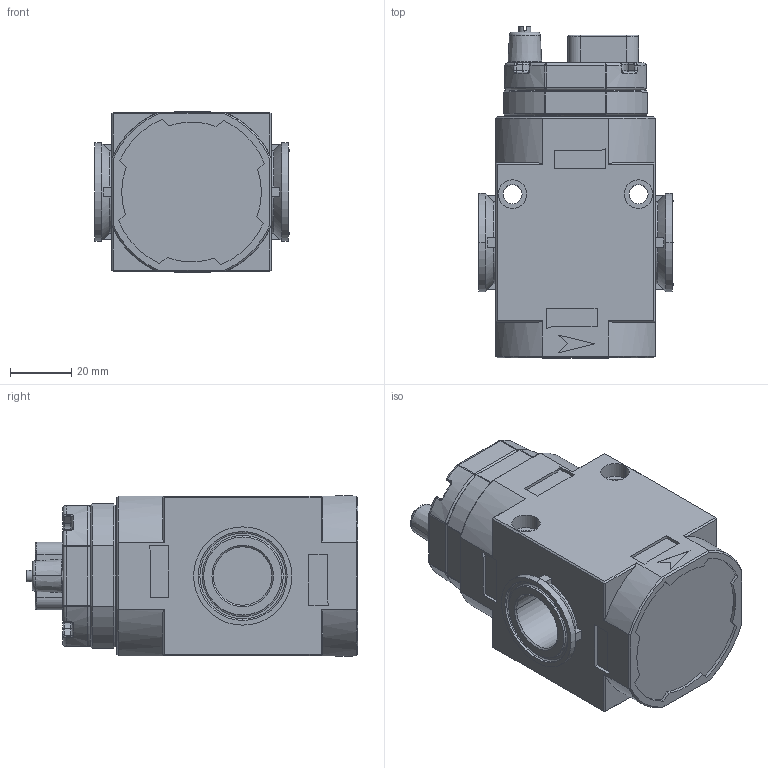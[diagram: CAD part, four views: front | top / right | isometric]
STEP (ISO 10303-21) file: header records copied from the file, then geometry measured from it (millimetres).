
FILE_DESCRIPTION(('STEP AP214'),'1');
FILE_NAME('052 AVP 12.stp','2022-09-07T12:38:35',(' '),(' '),'Spatial InterOp 3D',' ',' ');
FILE_SCHEMA(('AUTOMOTIVE_DESIGN { 1 0 10303 214 1 1 1 1 }'));
Length unit declared in the file: metre
Products named in the file (1): Volume
Bounding box: 63.3 x 108 x 52.1 mm (x, y, z)
Volume: 233307.8 mm3; surface area: 32733.1 mm2
Topology: 1 solids, 12 shells, 581 faces, 1318 edges, 789 vertices
Faces by surface type: plane 258, cylinder 183, torus 66, cone 31, bspline 19, sphere 16, extrusion 8
Entity records: 16816 total; most frequent: CARTESIAN_POINT 3656, DIRECTION 2900, ORIENTED_EDGE 2620, EDGE_CURVE 1310, AXIS2_PLACEMENT_3D 1113, VERTEX_POINT 789, VECTOR 674, LINE 666
